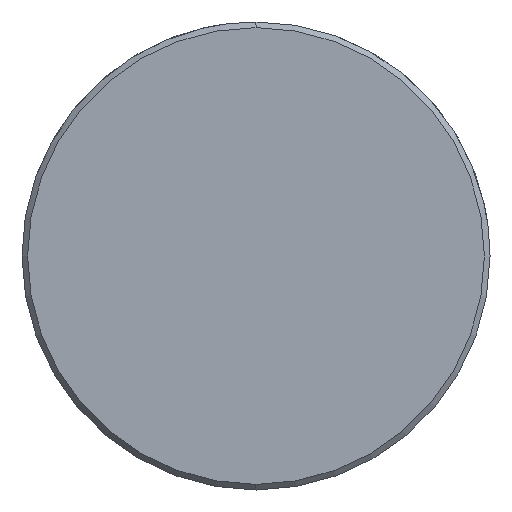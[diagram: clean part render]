
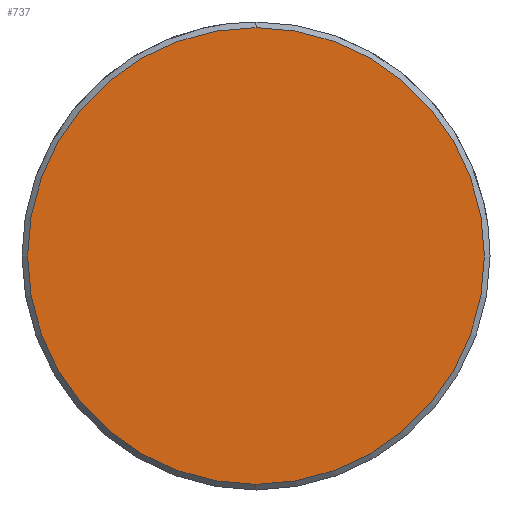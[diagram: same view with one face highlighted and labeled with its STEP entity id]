
A CAD part, left-side view. The second image highlights one B-rep face of the part: STEP entity #737.
In plain terms, the highlighted planar face has unit normal (-1, 0, 0).
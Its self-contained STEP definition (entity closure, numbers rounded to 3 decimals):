
#669=CARTESIAN_POINT('Vertex',(0.,0.,-12.2)) ;
#672=CARTESIAN_POINT('Axis2P3D Location',(0.,0.,0.)) ;
#676=CARTESIAN_POINT('Vertex',(0.,12.2,0.)) ;
#679=CARTESIAN_POINT('Axis2P3D Location',(0.,0.,0.)) ;
#683=CARTESIAN_POINT('Vertex',(0.,0.,12.2)) ;
#705=CARTESIAN_POINT('Axis2P3D Location',(0.,0.,0.)) ;
#709=CARTESIAN_POINT('Vertex',(0.,-12.2,0.)) ;
#712=CARTESIAN_POINT('Axis2P3D Location',(0.,0.,0.)) ;
#726=CARTESIAN_POINT('Axis2P3D Location',(0.,0.,0.)) ;
#673=DIRECTION('Axis2P3D Direction',(1.,0.,-0.)) ;
#680=DIRECTION('Axis2P3D Direction',(1.,0.,-0.)) ;
#706=DIRECTION('Axis2P3D Direction',(1.,0.,-0.)) ;
#713=DIRECTION('Axis2P3D Direction',(1.,0.,-0.)) ;
#727=DIRECTION('Axis2P3D Direction',(1.,0.,-0.)) ;
#728=DIRECTION('Axis2P3D XDirection',(-0.,0.,-1.)) ;
#674=AXIS2_PLACEMENT_3D('Circle Axis2P3D',#672,#673,$) ;
#681=AXIS2_PLACEMENT_3D('Circle Axis2P3D',#679,#680,$) ;
#707=AXIS2_PLACEMENT_3D('Circle Axis2P3D',#705,#706,$) ;
#714=AXIS2_PLACEMENT_3D('Circle Axis2P3D',#712,#713,$) ;
#729=AXIS2_PLACEMENT_3D('Plane Axis2P3D',#726,#727,#728) ;
#732=ORIENTED_EDGE('',*,*,#678,.F.) ;
#733=ORIENTED_EDGE('',*,*,#716,.F.) ;
#734=ORIENTED_EDGE('',*,*,#711,.F.) ;
#735=ORIENTED_EDGE('',*,*,#685,.F.) ;
#737=ADVANCED_FACE('549-22X200',(#736),#730,.F.) ;
#675=CIRCLE('generated circle',#674,12.2) ;
#682=CIRCLE('generated circle',#681,12.2) ;
#708=CIRCLE('generated circle',#707,12.2) ;
#715=CIRCLE('generated circle',#714,12.2) ;
#678=EDGE_CURVE('',#670,#677,#675,.T.) ;
#685=EDGE_CURVE('',#677,#684,#682,.T.) ;
#711=EDGE_CURVE('',#684,#710,#708,.T.) ;
#716=EDGE_CURVE('',#710,#670,#715,.T.) ;
#731=EDGE_LOOP('',(#732,#733,#734,#735)) ;
#736=FACE_OUTER_BOUND('',#731,.T.) ;
#730=PLANE('Plane',#729) ;
#670=VERTEX_POINT('',#669) ;
#677=VERTEX_POINT('',#676) ;
#684=VERTEX_POINT('',#683) ;
#710=VERTEX_POINT('',#709) ;
